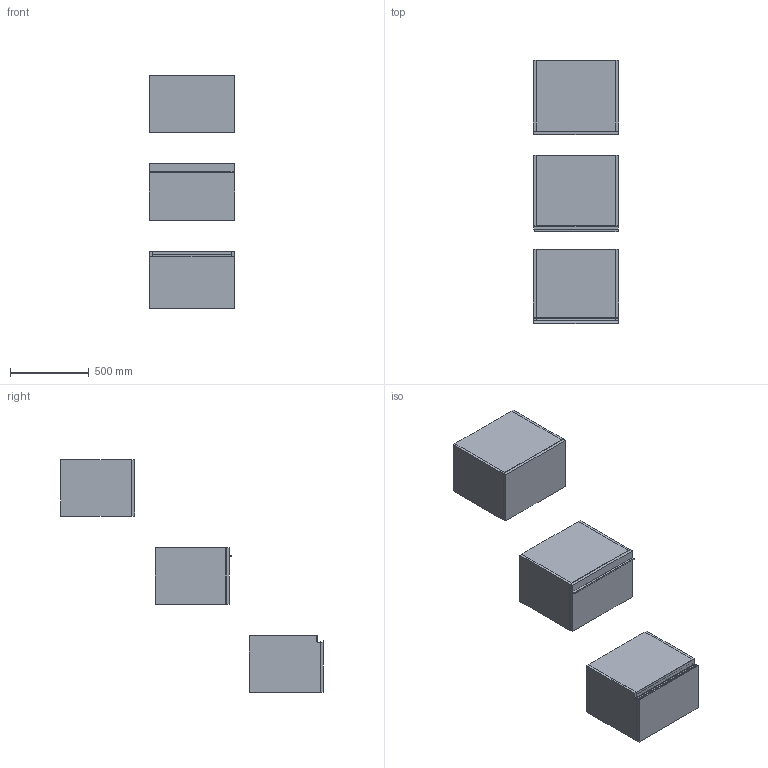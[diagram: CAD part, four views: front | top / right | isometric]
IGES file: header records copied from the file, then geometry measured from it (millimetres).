
Start section: Data from Parasolid IGES Translator 19.0.9, Copyright(c) 2006 Siemens PL M Software. All Rights Reserved.
Global section: file name: noorth-SI-H 36 D 47 W 54_8350.igs; native system: By Siemens PLM Incorporated; preprocessor: XPlus GENERIC/IGES 19.0.9; author: Noname; organization: Noname; date: 20200601.093431; units: metre
Bounding box: 540.01 x 1669.1 x 1480 mm (x, y, z)
Volume: 49378922.1 mm3; surface area: 7319460.5 mm2
Topology: 20 solids, 20 shells, 178 faces, 382 edges, 234 vertices
Faces by surface type: plane 134, extrusion 16, bspline 16, cylinder 12
